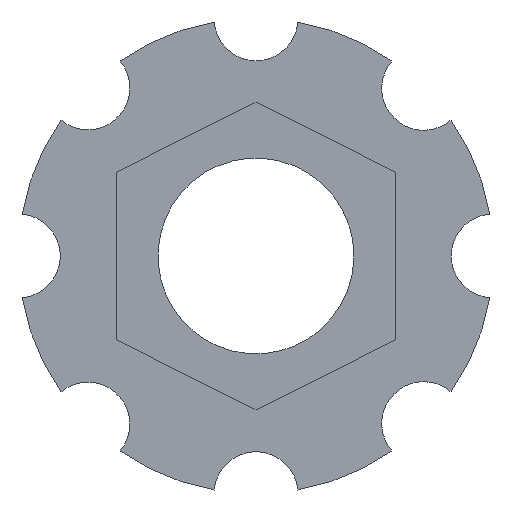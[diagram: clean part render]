
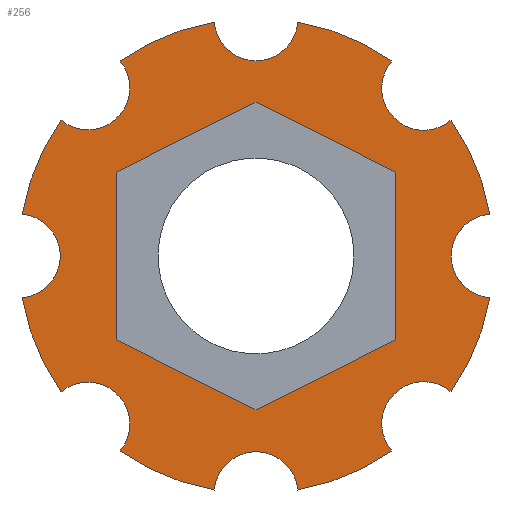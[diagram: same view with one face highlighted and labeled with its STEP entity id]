
A CAD part, front view. The second image highlights one B-rep face of the part: STEP entity #256.
In plain terms, the highlighted free-form (B-spline) face has degree [1, 1] with [2, 2] control points.
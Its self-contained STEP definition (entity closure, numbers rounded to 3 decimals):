
#256=ADVANCED_FACE('',(#464,#466),#468,.F.);
#464=FACE_BOUND('',#465,.T.);
#465=EDGE_LOOP('',(#606,#607,#608,#609,#610,#611,#612,#613,#614,#615,#616,#617,#618,
#619,#620,#621));
#466=FACE_BOUND('',#467,.T.);
#467=EDGE_LOOP('',(#622,#623,#624,#625,#626,#627));
#468=B_SPLINE_SURFACE_WITH_KNOTS('',1,1,(
(#469,#470),
(#471,#472)),
.UNSPECIFIED.,.F.,.F.,.F.,
(2,2),
(2,2),
(3.127,19.862),
(27.633,44.368),
.UNSPECIFIED.);
#469=CARTESIAN_POINT('',(2.509,47.701,15.229));
#470=CARTESIAN_POINT('',(-15.23,47.701,15.229));
#471=CARTESIAN_POINT('',(2.509,47.701,-2.51));
#472=CARTESIAN_POINT('',(-15.23,47.701,-2.51));
#606=ORIENTED_EDGE('',*,*,#722,.F.);
#607=ORIENTED_EDGE('',*,*,#704,.F.);
#608=ORIENTED_EDGE('',*,*,#712,.F.);
#609=ORIENTED_EDGE('',*,*,#684,.F.);
#610=ORIENTED_EDGE('',*,*,#714,.F.);
#611=ORIENTED_EDGE('',*,*,#700,.F.);
#612=ORIENTED_EDGE('',*,*,#718,.F.);
#613=ORIENTED_EDGE('',*,*,#680,.F.);
#614=ORIENTED_EDGE('',*,*,#716,.F.);
#615=ORIENTED_EDGE('',*,*,#692,.F.);
#616=ORIENTED_EDGE('',*,*,#710,.F.);
#617=ORIENTED_EDGE('',*,*,#688,.F.);
#618=ORIENTED_EDGE('',*,*,#708,.F.);
#619=ORIENTED_EDGE('',*,*,#696,.F.);
#620=ORIENTED_EDGE('',*,*,#720,.F.);
#621=ORIENTED_EDGE('',*,*,#676,.F.);
#622=ORIENTED_EDGE('',*,*,#674,.F.);
#623=ORIENTED_EDGE('',*,*,#671,.F.);
#624=ORIENTED_EDGE('',*,*,#668,.F.);
#625=ORIENTED_EDGE('',*,*,#665,.F.);
#626=ORIENTED_EDGE('',*,*,#662,.F.);
#627=ORIENTED_EDGE('',*,*,#658,.F.);
#658=EDGE_CURVE('',#728,#729,#730,.T.);
#662=EDGE_CURVE('',#729,#736,#737,.T.);
#665=EDGE_CURVE('',#736,#741,#742,.T.);
#668=EDGE_CURVE('',#741,#746,#747,.T.);
#671=EDGE_CURVE('',#746,#751,#752,.T.);
#674=EDGE_CURVE('',#751,#728,#756,.T.);
#676=EDGE_CURVE('',#758,#759,#760,.T.);
#680=EDGE_CURVE('',#766,#767,#768,.T.);
#684=EDGE_CURVE('',#774,#775,#776,.T.);
#688=EDGE_CURVE('',#782,#783,#784,.T.);
#692=EDGE_CURVE('',#790,#791,#792,.T.);
#696=EDGE_CURVE('',#798,#799,#800,.T.);
#700=EDGE_CURVE('',#806,#807,#808,.T.);
#704=EDGE_CURVE('',#814,#815,#816,.T.);
#708=EDGE_CURVE('',#799,#782,#822,.T.);
#710=EDGE_CURVE('',#783,#790,#824,.T.);
#712=EDGE_CURVE('',#775,#814,#826,.T.);
#714=EDGE_CURVE('',#807,#774,#828,.T.);
#716=EDGE_CURVE('',#791,#766,#830,.T.);
#718=EDGE_CURVE('',#767,#806,#832,.T.);
#720=EDGE_CURVE('',#759,#798,#834,.T.);
#722=EDGE_CURVE('',#815,#758,#836,.T.);
#728=VERTEX_POINT('',#846);
#729=VERTEX_POINT('',#847);
#730=LINE('',#848,#849);
#736=VERTEX_POINT('',#862);
#737=LINE('',#863,#864);
#741=VERTEX_POINT('',#873);
#742=LINE('',#874,#875);
#746=VERTEX_POINT('',#884);
#747=LINE('',#885,#886);
#751=VERTEX_POINT('',#895);
#752=LINE('',#896,#897);
#756=LINE('',#906,#907);
#758=VERTEX_POINT('',#912);
#759=VERTEX_POINT('',#913);
#760=CIRCLE('',#914,1.59);
#766=VERTEX_POINT('',#930);
#767=VERTEX_POINT('',#931);
#768=CIRCLE('',#932,1.59);
#774=VERTEX_POINT('',#948);
#775=VERTEX_POINT('',#949);
#776=CIRCLE('',#950,1.59);
#782=VERTEX_POINT('',#966);
#783=VERTEX_POINT('',#967);
#784=CIRCLE('',#968,1.59);
#790=VERTEX_POINT('',#984);
#791=VERTEX_POINT('',#985);
#792=CIRCLE('',#986,1.59);
#798=VERTEX_POINT('',#1002);
#799=VERTEX_POINT('',#1003);
#800=CIRCLE('',#1004,1.59);
#806=VERTEX_POINT('',#1020);
#807=VERTEX_POINT('',#1021);
#808=CIRCLE('',#1022,1.59);
#814=VERTEX_POINT('',#1038);
#815=VERTEX_POINT('',#1039);
#816=CIRCLE('',#1040,1.59);
#822=CIRCLE('',#1056,9.01);
#824=CIRCLE('',#1064,9.01);
#826=CIRCLE('',#1072,9.01);
#828=CIRCLE('',#1080,9.01);
#830=CIRCLE('',#1088,9.01);
#832=CIRCLE('',#1096,9.01);
#834=CIRCLE('',#1104,9.01);
#836=CIRCLE('',#1112,9.01);
#846=CARTESIAN_POINT('',(-1.06,47.701,9.54));
#847=CARTESIAN_POINT('',(-6.36,47.701,12.19));
#848=CARTESIAN_POINT('',(-1.06,47.701,9.54));
#849=VECTOR('',#850,1.);
#850=DIRECTION('',(-0.894,0.,0.447));
#862=CARTESIAN_POINT('',(-11.66,47.701,9.54));
#863=CARTESIAN_POINT('',(-6.36,47.701,12.19));
#864=VECTOR('',#865,1.);
#865=DIRECTION('',(-0.894,0.,-0.447));
#873=CARTESIAN_POINT('',(-11.66,47.701,3.18));
#874=CARTESIAN_POINT('',(-11.66,47.701,9.54));
#875=VECTOR('',#876,1.);
#876=DIRECTION('',(0.,0.,-1.));
#884=CARTESIAN_POINT('',(-6.36,47.701,0.53));
#885=CARTESIAN_POINT('',(-11.66,47.701,3.18));
#886=VECTOR('',#887,1.);
#887=DIRECTION('',(0.894,0.,-0.447));
#895=CARTESIAN_POINT('',(-1.06,47.701,3.18));
#896=CARTESIAN_POINT('',(-6.36,47.701,0.53));
#897=VECTOR('',#898,1.);
#898=DIRECTION('',(0.894,0.,0.447));
#906=CARTESIAN_POINT('',(-1.06,47.701,3.18));
#907=VECTOR('',#908,1.);
#908=DIRECTION('',(0.,0.,1.));
#912=CARTESIAN_POINT('',(-15.23,47.701,4.776));
#913=CARTESIAN_POINT('',(-15.23,47.701,7.944));
#914=AXIS2_PLACEMENT_3D('',#915,#916,#917);
#915=CARTESIAN_POINT('',(-15.37,47.701,6.36));
#916=DIRECTION('',(0.,-1.,0.));
#917=DIRECTION('',(0.088,0.,-0.996));
#930=CARTESIAN_POINT('',(2.509,47.701,7.946));
#931=CARTESIAN_POINT('',(2.509,47.701,4.774));
#932=AXIS2_PLACEMENT_3D('',#933,#934,#935);
#933=CARTESIAN_POINT('',(2.627,47.701,6.36));
#934=DIRECTION('',(0.,-1.,0.));
#935=DIRECTION('',(-0.074,0.,0.997));
#948=CARTESIAN_POINT('',(-4.776,47.701,-2.51));
#949=CARTESIAN_POINT('',(-7.944,47.701,-2.51));
#950=AXIS2_PLACEMENT_3D('',#951,#952,#953);
#951=CARTESIAN_POINT('',(-6.36,47.701,-2.65));
#952=DIRECTION('',(0.,-1.,0.));
#953=DIRECTION('',(0.996,0.,0.088));
#966=CARTESIAN_POINT('',(-7.946,47.701,15.229));
#967=CARTESIAN_POINT('',(-4.774,47.701,15.229));
#968=AXIS2_PLACEMENT_3D('',#969,#970,#971);
#969=CARTESIAN_POINT('',(-6.36,47.701,15.347));
#970=DIRECTION('',(0.,-1.,0.));
#971=DIRECTION('',(-0.997,0.,-0.074));
#984=CARTESIAN_POINT('',(-1.21,47.701,13.753));
#985=CARTESIAN_POINT('',(1.033,47.701,11.51));
#986=AXIS2_PLACEMENT_3D('',#987,#988,#989);
#987=CARTESIAN_POINT('',(-0.005,47.701,12.715));
#988=DIRECTION('',(-0.,-1.,0.));
#989=DIRECTION('',(-0.758,0.,0.653));
#1002=CARTESIAN_POINT('',(-13.752,47.701,11.512));
#1003=CARTESIAN_POINT('',(-11.512,47.701,13.752));
#1004=AXIS2_PLACEMENT_3D('',#1005,#1006,#1007);
#1005=CARTESIAN_POINT('',(-12.731,47.701,12.731));
#1006=DIRECTION('',(-0.,-1.,0.));
#1007=DIRECTION('',(-0.642,0.,-0.767));
#1020=CARTESIAN_POINT('',(1.033,47.701,1.21));
#1021=CARTESIAN_POINT('',(-1.21,47.701,-1.033));
#1022=AXIS2_PLACEMENT_3D('',#1023,#1024,#1025);
#1023=CARTESIAN_POINT('',(-0.005,47.701,0.005));
#1024=DIRECTION('',(0.,-1.,-0.));
#1025=DIRECTION('',(0.653,0.,0.758));
#1038=CARTESIAN_POINT('',(-11.512,47.701,-1.032));
#1039=CARTESIAN_POINT('',(-13.752,47.701,1.208));
#1040=AXIS2_PLACEMENT_3D('',#1041,#1042,#1043);
#1041=CARTESIAN_POINT('',(-12.731,47.701,-0.011));
#1042=DIRECTION('',(0.,-1.,0.));
#1043=DIRECTION('',(0.767,0.,-0.642));
#1056=AXIS2_PLACEMENT_3D('',#1057,#1058,#1059);
#1057=CARTESIAN_POINT('',(-6.36,47.701,6.36));
#1058=DIRECTION('',(0.,1.,0.));
#1059=DIRECTION('',(-0.572,0.,0.82));
#1064=AXIS2_PLACEMENT_3D('',#1065,#1066,#1067);
#1065=CARTESIAN_POINT('',(-6.36,47.701,6.36));
#1066=DIRECTION('',(0.,1.,0.));
#1067=DIRECTION('',(0.176,0.,0.984));
#1072=AXIS2_PLACEMENT_3D('',#1073,#1074,#1075);
#1073=CARTESIAN_POINT('',(-6.36,47.701,6.36));
#1074=DIRECTION('',(0.,1.,0.));
#1075=DIRECTION('',(-0.176,0.,-0.984));
#1080=AXIS2_PLACEMENT_3D('',#1081,#1082,#1083);
#1081=CARTESIAN_POINT('',(-6.36,47.701,6.36));
#1082=DIRECTION('',(0.,1.,0.));
#1083=DIRECTION('',(0.572,0.,-0.821));
#1088=AXIS2_PLACEMENT_3D('',#1089,#1090,#1091);
#1089=CARTESIAN_POINT('',(-6.36,47.701,6.36));
#1090=DIRECTION('',(0.,1.,0.));
#1091=DIRECTION('',(0.821,0.,0.572));
#1096=AXIS2_PLACEMENT_3D('',#1097,#1098,#1099);
#1097=CARTESIAN_POINT('',(-6.36,47.701,6.36));
#1098=DIRECTION('',(0.,1.,0.));
#1099=DIRECTION('',(0.984,0.,-0.176));
#1104=AXIS2_PLACEMENT_3D('',#1105,#1106,#1107);
#1105=CARTESIAN_POINT('',(-6.36,47.701,6.36));
#1106=DIRECTION('',(0.,1.,0.));
#1107=DIRECTION('',(-0.984,0.,0.176));
#1112=AXIS2_PLACEMENT_3D('',#1113,#1114,#1115);
#1113=CARTESIAN_POINT('',(-6.36,47.701,6.36));
#1114=DIRECTION('',(0.,1.,0.));
#1115=DIRECTION('',(-0.82,0.,-0.572));
